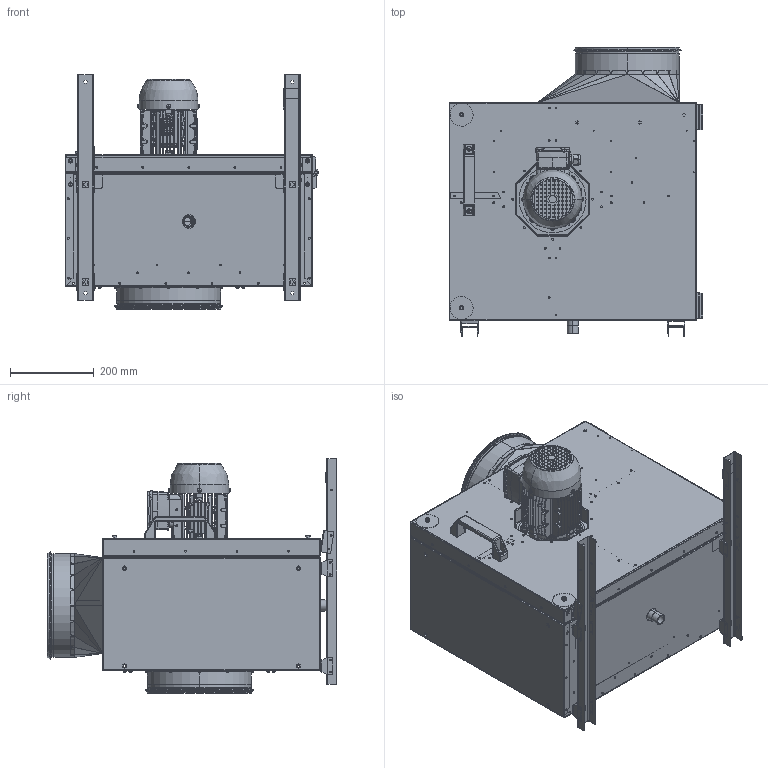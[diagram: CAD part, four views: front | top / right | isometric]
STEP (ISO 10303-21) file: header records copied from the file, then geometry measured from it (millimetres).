
FILE_DESCRIPTION (( 'STEP AP203' ), '1' );
FILE_NAME ('145819-00_MPS250D2F430_step.step', '2018-10-09T10:28:57', ( '' ), ( '' ), 'SwSTEP 2.0', 'SolidWorks 2017', '' );
FILE_SCHEMA (( 'CONFIG_CONTROL_DESIGN' ));
Length unit declared in the file: millimetre
Products named in the file (1): 145819-00_MPS250D2F430_step
Bounding box: 607.03 x 692.64 x 561.5 mm (x, y, z)
Surface area: 5625313.8 mm2 (no closed solid volume)
Topology: 0 solids, 233 shells, 2572 faces, 11539 edges, 8843 vertices
Faces by surface type: plane 1391, cylinder 853, bspline 139, cone 97, torus 92
Entity records: 138690 total; most frequent: CARTESIAN_POINT 47977, DIRECTION 18105, ORIENTED_EDGE 16070, EDGE_CURVE 11539, VERTEX_POINT 8843, LINE 6945, VECTOR 6945, AXIS2_PLACEMENT_3D 5580
